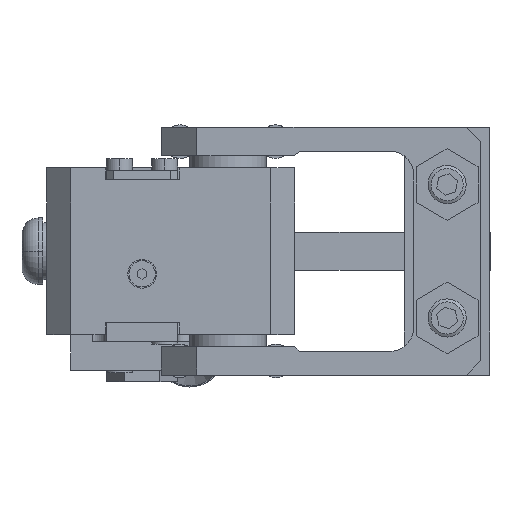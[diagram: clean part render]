
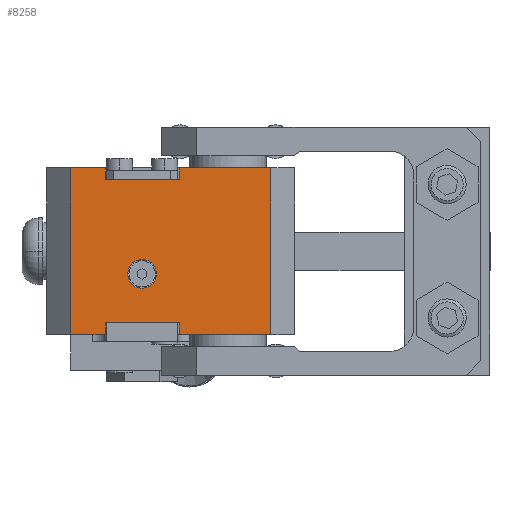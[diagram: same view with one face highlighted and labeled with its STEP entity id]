
A CAD part, left-side view. The second image highlights one B-rep face of the part: STEP entity #8258.
In plain terms, the highlighted planar face has unit normal (-1, 0, 0).
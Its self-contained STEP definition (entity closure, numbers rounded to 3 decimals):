
#464 = EDGE_CURVE ( 'NONE', #8907, #8813, #16490, .T. ) ;
#470 = DIRECTION ( 'NONE',  ( 0., -1., 0. ) ) ;
#490 = CARTESIAN_POINT ( 'NONE',  ( -28., 25.75, -15. ) ) ;
#527 = ORIENTED_EDGE ( 'NONE', *, *, #1540, .T. ) ;
#613 = LINE ( 'NONE', #490, #18023 ) ;
#695 = DIRECTION ( 'NONE',  ( 0., -1., 0. ) ) ;
#1483 = VECTOR ( 'NONE', #15269, 1000. ) ;
#1540 = EDGE_CURVE ( 'NONE', #15812, #4033, #10237, .T. ) ;
#1663 = CARTESIAN_POINT ( 'NONE',  ( -28., 10.25, 25. ) ) ;
#1683 = VECTOR ( 'NONE', #3563, 1000. ) ;
#1950 = EDGE_CURVE ( 'NONE', #9208, #15812, #19241, .T. ) ;
#1959 = CARTESIAN_POINT ( 'NONE',  ( -28., 33., 17.5 ) ) ;
#2127 = ORIENTED_EDGE ( 'NONE', *, *, #10468, .F. ) ;
#2363 = VECTOR ( 'NONE', #13873, 1000. ) ;
#2642 = EDGE_CURVE ( 'NONE', #8813, #8907, #9493, .T. ) ;
#2832 = CARTESIAN_POINT ( 'NONE',  ( -28., 25.75, -15. ) ) ;
#2874 = CARTESIAN_POINT ( 'NONE',  ( -28., 33., 17.5 ) ) ;
#2996 = DIRECTION ( 'NONE',  ( 0., -1., 0. ) ) ;
#3019 = DIRECTION ( 'NONE',  ( 0., 1., 0. ) ) ;
#3039 = DIRECTION ( 'NONE',  ( -1., 0., 0. ) ) ;
#3053 = CARTESIAN_POINT ( 'NONE',  ( -28., 18., -4.75 ) ) ;
#3351 = CARTESIAN_POINT ( 'NONE',  ( -28., 33., -17.5 ) ) ;
#3563 = DIRECTION ( 'NONE',  ( 0., 0., 1. ) ) ;
#3602 = CARTESIAN_POINT ( 'NONE',  ( -28., 10.25, -25. ) ) ;
#3722 = ORIENTED_EDGE ( 'NONE', *, *, #2642, .F. ) ;
#3800 = LINE ( 'NONE', #3602, #1683 ) ;
#3806 = LINE ( 'NONE', #1663, #12913 ) ;
#3871 = VERTEX_POINT ( 'NONE', #5257 ) ;
#4033 = VERTEX_POINT ( 'NONE', #2832 ) ;
#4093 = VERTEX_POINT ( 'NONE', #1959 ) ;
#4440 = DIRECTION ( 'NONE',  ( 0., 0., -1. ) ) ;
#5029 = LINE ( 'NONE', #2874, #7812 ) ;
#5033 = LINE ( 'NONE', #3351, #13829 ) ;
#5115 = EDGE_CURVE ( 'NONE', #15245, #15167, #3800, .T. ) ;
#5206 = VECTOR ( 'NONE', #4440, 1000. ) ;
#5257 = CARTESIAN_POINT ( 'NONE',  ( -28., 25.75, 15. ) ) ;
#5333 = CARTESIAN_POINT ( 'NONE',  ( -28., 10.25, 15. ) ) ;
#5775 = ORIENTED_EDGE ( 'NONE', *, *, #464, .F. ) ;
#6201 = ORIENTED_EDGE ( 'NONE', *, *, #14016, .T. ) ;
#6517 = CARTESIAN_POINT ( 'NONE',  ( -28., 25.75, 25. ) ) ;
#6543 = FACE_OUTER_BOUND ( 'NONE', #12715, .T. ) ;
#6707 = EDGE_CURVE ( 'NONE', #15245, #18634, #5033, .T. ) ;
#6771 = VECTOR ( 'NONE', #9333, 1000. ) ;
#6810 = DIRECTION ( 'NONE',  ( 0., 1., 0. ) ) ;
#6862 = DIRECTION ( 'NONE',  ( 0., 1., 0. ) ) ;
#6866 = DIRECTION ( 'NONE',  ( 1., 0., 0. ) ) ;
#6882 = CARTESIAN_POINT ( 'NONE',  ( -28., 18., -4.75 ) ) ;
#6935 = DIRECTION ( 'NONE',  ( -1., 0., 0. ) ) ;
#6954 = CARTESIAN_POINT ( 'NONE',  ( -28., 33., 17.5 ) ) ;
#6975 = PLANE ( 'NONE',  #14737 ) ;
#7225 = CARTESIAN_POINT ( 'NONE',  ( -28., 25.75, 17.5 ) ) ;
#7421 = EDGE_CURVE ( 'NONE', #4033, #15167, #613, .T. ) ;
#7757 = CARTESIAN_POINT ( 'NONE',  ( -28., 10.25, 17.5 ) ) ;
#7792 = CARTESIAN_POINT ( 'NONE',  ( -28., -9., -17.5 ) ) ;
#7812 = VECTOR ( 'NONE', #695, 1000. ) ;
#8258 = ADVANCED_FACE ( 'NONE', ( #6543, #14763 ), #6975, .F. ) ;
#8433 = LINE ( 'NONE', #6517, #5206 ) ;
#8486 = ORIENTED_EDGE ( 'NONE', *, *, #7421, .T. ) ;
#8806 = VERTEX_POINT ( 'NONE', #5333 ) ;
#8813 = VERTEX_POINT ( 'NONE', #16394 ) ;
#8907 = VERTEX_POINT ( 'NONE', #17532 ) ;
#8918 = VECTOR ( 'NONE', #19208, 1000. ) ;
#9208 = VERTEX_POINT ( 'NONE', #13081 ) ;
#9333 = DIRECTION ( 'NONE',  ( 0., 0., -1. ) ) ;
#9455 = ORIENTED_EDGE ( 'NONE', *, *, #1950, .T. ) ;
#9493 = CIRCLE ( 'NONE', #11851, 3. ) ;
#9866 = ORIENTED_EDGE ( 'NONE', *, *, #15301, .T. ) ;
#10237 = LINE ( 'NONE', #10256, #10904 ) ;
#10256 = CARTESIAN_POINT ( 'NONE',  ( -28., 25.75, -25. ) ) ;
#10275 = DIRECTION ( 'NONE',  ( 0., 0., 1. ) ) ;
#10400 = VECTOR ( 'NONE', #15481, 1000. ) ;
#10468 = EDGE_CURVE ( 'NONE', #16371, #18634, #13244, .T. ) ;
#10685 = ORIENTED_EDGE ( 'NONE', *, *, #18727, .F. ) ;
#10904 = VECTOR ( 'NONE', #10275, 1000. ) ;
#11052 = ORIENTED_EDGE ( 'NONE', *, *, #6707, .T. ) ;
#11326 = CARTESIAN_POINT ( 'NONE',  ( -28., -9., 17.5 ) ) ;
#11635 = ORIENTED_EDGE ( 'NONE', *, *, #18572, .F. ) ;
#11851 = AXIS2_PLACEMENT_3D ( 'NONE', #3053, #3039, #3019 ) ;
#11899 = EDGE_CURVE ( 'NONE', #4093, #16033, #5029, .T. ) ;
#11945 = CARTESIAN_POINT ( 'NONE',  ( -28., -9., 17.5 ) ) ;
#12425 = CARTESIAN_POINT ( 'NONE',  ( -28., 10.25, -15. ) ) ;
#12715 = EDGE_LOOP ( 'NONE', ( #9866, #11635, #18295, #18514, #6201, #9455, #527, #8486, #16933, #11052, #2127, #10685 ) ) ;
#12776 = AXIS2_PLACEMENT_3D ( 'NONE', #6882, #6935, #6810 ) ;
#12824 = EDGE_LOOP ( 'NONE', ( #5775, #3722 ) ) ;
#12913 = VECTOR ( 'NONE', #18979, 1000. ) ;
#13054 = CARTESIAN_POINT ( 'NONE',  ( -28., 25.75, -17.5 ) ) ;
#13081 = CARTESIAN_POINT ( 'NONE',  ( -28., 33., -17.5 ) ) ;
#13244 = LINE ( 'NONE', #11326, #6771 ) ;
#13829 = VECTOR ( 'NONE', #2996, 1000. ) ;
#13873 = DIRECTION ( 'NONE',  ( 0., 0., -1. ) ) ;
#14016 = EDGE_CURVE ( 'NONE', #4093, #9208, #17709, .T. ) ;
#14737 = AXIS2_PLACEMENT_3D ( 'NONE', #6954, #6866, #6862 ) ;
#14763 = FACE_BOUND ( 'NONE', #12824, .T. ) ;
#15167 = VERTEX_POINT ( 'NONE', #12425 ) ;
#15245 = VERTEX_POINT ( 'NONE', #17306 ) ;
#15269 = DIRECTION ( 'NONE',  ( 0., -1., 0. ) ) ;
#15301 = EDGE_CURVE ( 'NONE', #16748, #8806, #3806, .T. ) ;
#15481 = DIRECTION ( 'NONE',  ( 0., -1., 0. ) ) ;
#15773 = CARTESIAN_POINT ( 'NONE',  ( -28., 33., 17.5 ) ) ;
#15812 = VERTEX_POINT ( 'NONE', #13054 ) ;
#15961 = EDGE_CURVE ( 'NONE', #16033, #3871, #8433, .T. ) ;
#16033 = VERTEX_POINT ( 'NONE', #7225 ) ;
#16371 = VERTEX_POINT ( 'NONE', #11945 ) ;
#16394 = CARTESIAN_POINT ( 'NONE',  ( -28., 15., -4.75 ) ) ;
#16490 = CIRCLE ( 'NONE', #12776, 3. ) ;
#16748 = VERTEX_POINT ( 'NONE', #7757 ) ;
#16933 = ORIENTED_EDGE ( 'NONE', *, *, #5115, .F. ) ;
#17180 = CARTESIAN_POINT ( 'NONE',  ( -28., 25.75, 15. ) ) ;
#17306 = CARTESIAN_POINT ( 'NONE',  ( -28., 10.25, -17.5 ) ) ;
#17395 = CARTESIAN_POINT ( 'NONE',  ( -28., 33., 17.5 ) ) ;
#17532 = CARTESIAN_POINT ( 'NONE',  ( -28., 21., -4.75 ) ) ;
#17709 = LINE ( 'NONE', #15773, #2363 ) ;
#18023 = VECTOR ( 'NONE', #470, 1000. ) ;
#18295 = ORIENTED_EDGE ( 'NONE', *, *, #15961, .F. ) ;
#18514 = ORIENTED_EDGE ( 'NONE', *, *, #11899, .F. ) ;
#18572 = EDGE_CURVE ( 'NONE', #3871, #8806, #19211, .T. ) ;
#18634 = VERTEX_POINT ( 'NONE', #7792 ) ;
#18727 = EDGE_CURVE ( 'NONE', #16748, #16371, #19418, .T. ) ;
#18979 = DIRECTION ( 'NONE',  ( 0., 0., -1. ) ) ;
#19208 = DIRECTION ( 'NONE',  ( 0., -1., 0. ) ) ;
#19211 = LINE ( 'NONE', #17180, #1483 ) ;
#19241 = LINE ( 'NONE', #19257, #8918 ) ;
#19257 = CARTESIAN_POINT ( 'NONE',  ( -28., 33., -17.5 ) ) ;
#19418 = LINE ( 'NONE', #17395, #10400 ) ;
